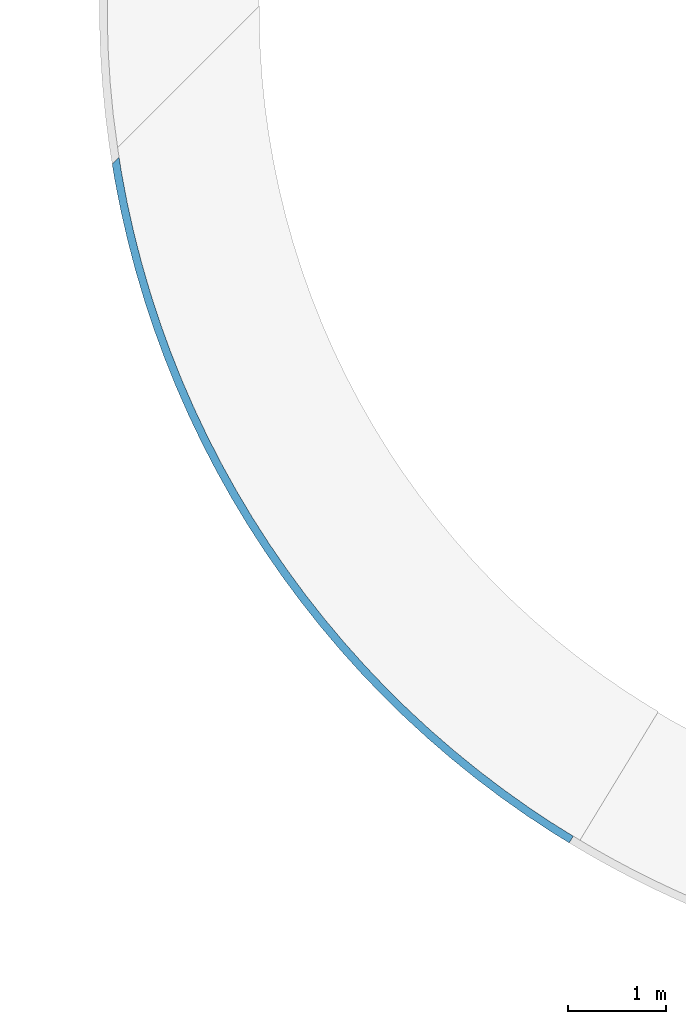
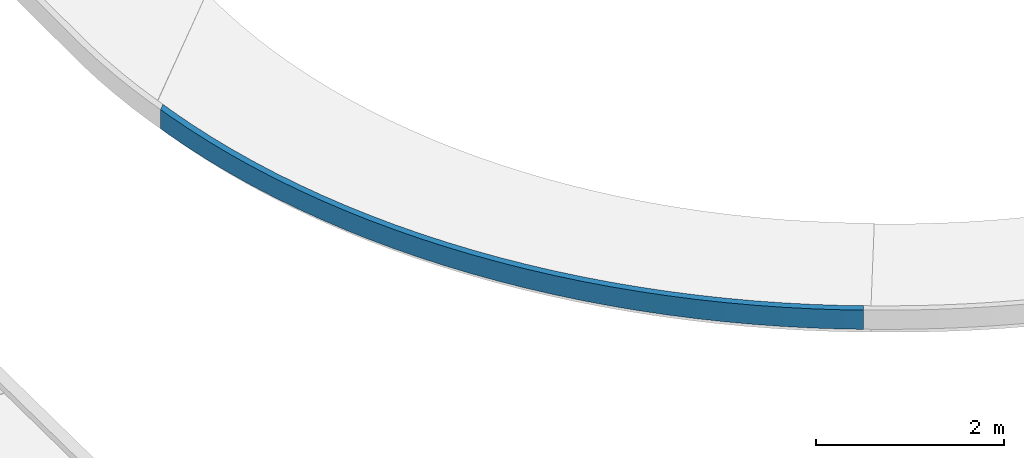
# One storey, part 4 of 8: 1 slab.
"""IFC4 building model written with IfcOpenShell, lengths in millimetres."""

from ifc_helpers import new_model, entity, si_unit, converted_unit, derived_unit, direction, frame, origin_with_axes, place, context, subcontext, project, spatial, polygons, material, type_object, element, save


model = new_model("IFC4")

# Units and contexts
model_context = context("Model", 3, precision=0.01, world=origin_with_axes(), true_north=direction((0.0, 1.0)))
body_context = subcontext(model_context, "Body", "Model", "MODEL_VIEW")
ifc_project = project(units=[si_unit("LENGTHUNIT", "METRE", prefix="MILLI"), si_unit("AREAUNIT", "SQUARE_METRE"), si_unit("VOLUMEUNIT", "CUBIC_METRE"), converted_unit("PLANEANGLEUNIT", "DEGREE", entity("IfcPlaneAngleMeasure", 0.0174532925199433), si_unit("PLANEANGLEUNIT", "RADIAN"), dimensions=[0, 0, 0, 0, 0, 0, 0]), converted_unit("TIMEUNIT", "Year", entity("IfcTimeMeasure", 31557600.0), si_unit("TIMEUNIT", "SECOND"), dimensions=[0, 0, 1, 0, 0, 0, 0]), si_unit("MASSUNIT", "GRAM", prefix="KILO"), si_unit("THERMODYNAMICTEMPERATUREUNIT", "DEGREE_CELSIUS"), si_unit("LUMINOUSINTENSITYUNIT", "LUMEN"), si_unit("ENERGYUNIT", "JOULE", prefix="MEGA"), derived_unit("THERMALCONDUCTANCEUNIT", [(si_unit("POWERUNIT", "WATT"), 1), (si_unit("LENGTHUNIT", "METRE"), -1), (si_unit("THERMODYNAMICTEMPERATUREUNIT", "KELVIN"), -1)]), derived_unit("SPECIFICHEATCAPACITYUNIT", [(si_unit("ENERGYUNIT", "JOULE"), 1), (si_unit("MASSUNIT", "GRAM", prefix="KILO"), -1), (si_unit("THERMODYNAMICTEMPERATUREUNIT", "KELVIN"), -1)]), derived_unit("MASSDENSITYUNIT", [(si_unit("MASSUNIT", "GRAM", prefix="KILO"), 1), (si_unit("VOLUMEUNIT", "CUBIC_METRE"), -1)])], contexts=[model_context])

# Site, building, storey
site_placement = place(None, origin_with_axes())
site = spatial("IfcSite", under=ifc_project, at=site_placement, Name="Exteriér", CompositionType="ELEMENT")
building_placement = place(site_placement, origin_with_axes())
building = spatial("IfcBuilding", under=site, at=building_placement, Name="Univerzitní lezecké centrum", CompositionType="ELEMENT")
storey_placement = place(building_placement, origin_with_axes())
storey = spatial("IfcBuildingStorey", under=building, at=storey_placement, Name="1.NP", CompositionType="ELEMENT", Elevation=0.0)

# Slab
ifc_material = material(Name="Beton prostý")
slab_type = type_object("IfcSlabType", Name="Beton prostý  250", PredefinedType="ROOF")
slab_placement = place(storey_placement, frame((-3795.442594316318, -5857.508418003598, -220.0), z_axis=(0.0, 0.0, 1.0), x_axis=(0.7671832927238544, -0.6414279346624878, 0.0)))
element("IfcSlab", 1, at=slab_placement, inside=storey, type_object=slab_type, material=ifc_material, PredefinedType="ROOF", context=body_context, shape_type="Tessellation", body=[
    polygons([(-5301.961705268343, 721.0910247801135, 264.4718154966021), (-5182.183226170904, 617.4970144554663, 262.3999352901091), (-4936.173227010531, 418.0139514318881, 258.4102740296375), (-4683.957898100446, 226.4367085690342, 254.5787291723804), (-4425.791198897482, 42.95818791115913, 250.9091587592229), (-4161.933081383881, -132.2368632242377, 247.405257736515), (-3892.649228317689, -298.9720382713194, 244.0705542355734), (-3618.210785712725, -457.0794490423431, 240.9084060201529), (-3338.894089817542, -606.3998947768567, 237.9219971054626), (-3054.980388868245, -746.7830224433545, 235.1143345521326), (-2766.755559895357, -878.0874781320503, 232.4882454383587), (-2474.509820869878, -1000.181049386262, 230.0463740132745), (-2178.537438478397, -1112.940798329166, 227.7911790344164), (-1879.136431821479, -1216.253185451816, 225.7249312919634), (-1576.608272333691, -1310.014183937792, 223.8497113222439), (-1271.257580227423, -1394.129384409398, 222.1674073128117), (-963.3918177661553, -1468.514089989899, 220.6797132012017), (-653.3209796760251, -1533.093401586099, 219.3881269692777), (-341.3572810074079, -1587.802293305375, 218.2939491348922), (-27.81484276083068, -1632.585677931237, 217.398281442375), (286.9906244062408, -1667.398462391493, 216.7020257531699), (602.7421380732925, -1692.205593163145, 216.2058831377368), (919.1217632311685, -1706.982091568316, 215.9103531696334), (1235.810932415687, -1711.713078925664, 215.8157334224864), (1552.49076647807, -1706.393791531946, 215.9221191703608), (1868.842395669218, -1691.02958545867, 216.2294032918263), (2184.547280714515, -1665.635931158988, 216.7372763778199), (2499.287533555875, -1630.238397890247, 217.4452270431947), (2709.359825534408, -1599.688200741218, 218.0562309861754), (2697.450549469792, -1520.579606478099, 219.6384028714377), (2473.747246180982, -1552.85397043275, 218.9929155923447), (2159.887294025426, -1587.630596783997, 218.2973830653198), (1845.07797564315, -1612.380876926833, 217.8023774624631), (1529.639503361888, -1627.079635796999, 217.5084022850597), (1213.892729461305, -1631.711922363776, 217.4157565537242), (898.158819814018, -1626.273024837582, 217.524534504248), (582.7589272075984, -1610.768475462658, 217.8346254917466), (268.0138646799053, -1585.214044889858, 218.3457141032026), (-45.75622079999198, -1549.63572613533, 219.0572804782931), (-358.2321739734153, -1504.069708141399, 219.9686008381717), (-669.0961559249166, -1448.562338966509, 221.0787482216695), (-978.0319673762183, -1383.170078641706, 222.3865934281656), (-1284.725370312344, -1307.959441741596, 223.8908061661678), (-1588.864407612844, -1223.006929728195, 225.5898564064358), (-1890.139720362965, -1128.398953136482, 227.4820159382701), (-2188.24486252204, -1024.231743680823, 229.5653601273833), (-2482.876612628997, -910.611256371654, 231.8377698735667), (-2773.735282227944, -787.6530617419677, 234.2969337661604), (-3060.525020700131, -655.4822282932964, 236.9403504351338), (-3342.954116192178, -514.2331952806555, 239.7653310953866), (-3620.735292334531, -364.0496359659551, 242.7690022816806), (-3893.586000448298, -205.0843114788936, 245.9483087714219), (-4161.228706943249, -37.49891543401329, 249.3000166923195), (-4423.391175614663, 138.5360905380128, 252.82071681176), (-4679.806744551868, 322.841650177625, 256.5068280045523), (-4930.214597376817, 515.2302947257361, 260.3546008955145), (-5174.360028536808, 715.5063336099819, 264.3601216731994), (-5293.177365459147, 819.4861935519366, 266.4397188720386), (-5301.961705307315, 721.0910242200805, 14.42182048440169), (-5182.183226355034, 617.4970141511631, 12.3499402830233), (-4936.173227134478, 418.0139514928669, 8.360279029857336), (-4683.957898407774, 226.4367083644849, 4.528734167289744), (-4425.7911986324, 42.9581882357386, 0.8591637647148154), (-4161.933081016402, -132.2368629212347, -2.644737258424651), (-3892.649228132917, -298.9720380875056, -5.979440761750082), (-3618.210786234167, -457.0794490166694, -9.141588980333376), (-3338.894089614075, -606.3998951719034, -12.12799790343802), (-3054.980388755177, -746.7830227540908, -14.93566045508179), (-2766.755559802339, -878.0874781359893, -17.5617495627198), (-2474.509820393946, -1000.181049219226, -20.00362098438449), (-2178.537439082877, -1112.940798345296, -22.2588159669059), (-1879.136431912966, -1216.253185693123, -24.32506371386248), (-1576.608272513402, -1310.014183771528, -26.20028367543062), (-1271.257580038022, -1394.129384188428, -27.88258768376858), (-963.3918171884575, -1468.514090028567, -29.37028180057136), (-653.3209793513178, -1533.093401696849, -30.66186803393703), (-341.3572807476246, -1587.802293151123, -31.75604586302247), (-27.81484331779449, -1632.585677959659, -32.65171355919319), (286.9906239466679, -1667.398462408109, -33.34796924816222), (602.7421381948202, -1692.205592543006, -33.84411185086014), (919.1217632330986, -1706.982092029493, -34.1396418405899), (1235.810932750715, -1711.713079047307, -34.23426158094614), (1552.490766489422, -1706.393791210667, -34.12787582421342), (1868.842396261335, -1691.029585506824, -33.82059171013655), (2184.547280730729, -1665.635930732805, -33.31271861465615), (2499.287533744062, -1630.238398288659, -32.60476796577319), (2709.359826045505, -1599.68820083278, -31.99376401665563), (2697.450549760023, -1520.579606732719, -30.41159213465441), (2473.747246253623, -1552.853970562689, -31.05707941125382), (2159.887293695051, -1587.630596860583, -31.75261193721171), (1845.077975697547, -1612.380877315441, -32.24761754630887), (1529.639503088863, -1627.079636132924, -32.54159272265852), (1213.892729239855, -1631.711922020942, -32.63423844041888), (898.1588198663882, -1626.273024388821, -32.52546048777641), (582.7589268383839, -1610.768475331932, -32.21536950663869), (268.0138649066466, -1585.214044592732, -31.70428089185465), (-45.75622061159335, -1549.635725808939, -30.99271451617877), (-358.2321736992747, -1504.069707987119, -30.0813941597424), (-669.0961556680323, -1448.562338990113, -28.97124677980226), (-978.0319671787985, -1383.17007895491, -27.66340157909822), (-1284.725370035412, -1307.95944130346, -26.15918882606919), (-1588.864407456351, -1223.006929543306, -24.46013859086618), (-1890.13972014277, -1128.398953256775, -22.56797906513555), (-2188.244862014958, -1024.231743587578, -20.48463487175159), (-2482.87661216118, -910.6112564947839, -18.2122251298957), (-2773.735282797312, -787.653061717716, -15.7530612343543), (-3060.525020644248, -655.4822284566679, -13.10964456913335), (-3342.954116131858, -514.2331952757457, -10.28466390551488), (-3620.73529283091, -364.0496358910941, -7.280992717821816), (-3893.586000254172, -205.0843118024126, -4.101686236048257), (-4161.228707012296, -37.49891585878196, -0.7499783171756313), (-4423.39117541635, 138.5360905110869, 2.770721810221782), (-4679.806744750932, 322.8416499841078, 6.456832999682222), (-4930.214596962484, 515.2302945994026, 10.30460589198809), (-5174.360029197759, 715.5063335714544, 14.31012667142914), (-5293.177365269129, 819.4861938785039, 16.38972387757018)], [[[1, 2, 3, 4, 5, 6, 7, 8, 9, 10, 11, 12, 13, 14, 15, 16, 17, 18, 19, 20, 21, 22, 23, 24, 25, 26, 27, 28, 29, 30, 31, 32, 33, 34, 35, 36, 37, 38, 39, 40, 41, 42, 43, 44, 45, 46, 47, 48, 49, 50, 51, 52, 53, 54, 55, 56, 57, 58]], [[2, 1, 59, 60]], [[3, 2, 60, 61]], [[4, 3, 61, 62]], [[5, 4, 62, 63]], [[6, 5, 63, 64]], [[7, 6, 64, 65]], [[8, 7, 65, 66]], [[9, 8, 66, 67]], [[10, 9, 67, 68]], [[11, 10, 68, 69]], [[12, 11, 69, 70]], [[13, 12, 70, 71]], [[14, 13, 71, 72]], [[15, 14, 72, 73]], [[16, 15, 73, 74]], [[17, 16, 74, 75]], [[18, 17, 75, 76]], [[19, 18, 76, 77]], [[20, 19, 77, 78]], [[21, 20, 78, 79]], [[22, 21, 79, 80]], [[23, 22, 80, 81]], [[24, 23, 81, 82]], [[25, 24, 82, 83]], [[26, 25, 83, 84]], [[27, 26, 84, 85]], [[28, 27, 85, 86]], [[29, 28, 86, 87]], [[30, 29, 87, 88]], [[31, 30, 88, 89]], [[32, 31, 89, 90]], [[33, 32, 90, 91]], [[34, 33, 91, 92]], [[35, 34, 92, 93]], [[36, 35, 93, 94]], [[37, 36, 94, 95]], [[38, 37, 95, 96]], [[39, 38, 96, 97]], [[40, 39, 97, 98]], [[41, 40, 98, 99]], [[42, 41, 99, 100]], [[43, 42, 100, 101]], [[44, 43, 101, 102]], [[45, 44, 102, 103]], [[46, 45, 103, 104]], [[47, 46, 104, 105]], [[48, 47, 105, 106]], [[49, 48, 106, 107]], [[50, 49, 107, 108]], [[51, 50, 108, 109]], [[52, 51, 109, 110]], [[53, 52, 110, 111]], [[54, 53, 111, 112]], [[55, 54, 112, 113]], [[56, 55, 113, 114]], [[57, 56, 114, 115]], [[58, 57, 115, 116]], [[1, 58, 116, 59]], [[60, 59, 116, 115, 114, 113, 112, 111, 110, 109, 108, 107, 106, 105, 104, 103, 102, 101, 100, 99, 98, 97, 96, 95, 94, 93, 92, 91, 90, 89, 88, 87, 86, 85, 84, 83, 82, 81, 80, 79, 78, 77, 76, 75, 74, 73, 72, 71, 70, 69, 68, 67, 66, 65, 64, 63, 62, 61]]], closed=True),
])

save(model, "model.ifc")
